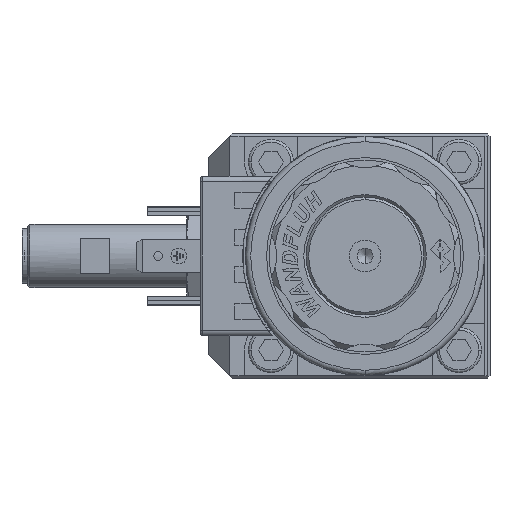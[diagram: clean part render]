
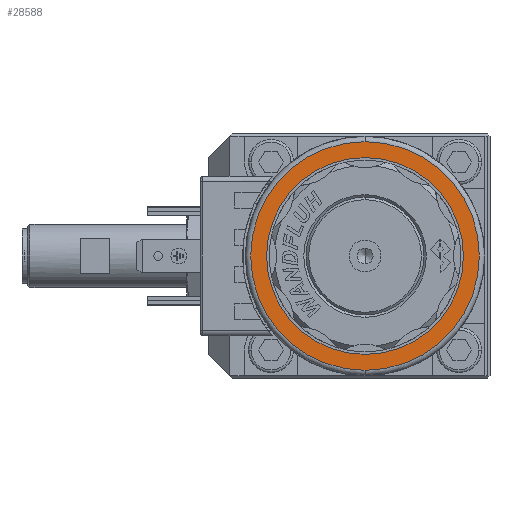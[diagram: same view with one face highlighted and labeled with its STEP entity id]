
A CAD part, left-side view. The second image highlights one B-rep face of the part: STEP entity #28588.
In plain terms, the highlighted planar face has unit normal (-1, 0, 0).
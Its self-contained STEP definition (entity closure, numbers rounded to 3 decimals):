
#7600 = DIRECTION ( 'NONE',  ( 0., 0., -1. ) ) ;
#7769 = CIRCLE ( 'NONE', #18915, 18.5 ) ;
#8116 = ORIENTED_EDGE ( 'NONE', *, *, #62734, .F. ) ;
#11963 = ORIENTED_EDGE ( 'NONE', *, *, #51645, .F. ) ;
#12157 = CARTESIAN_POINT ( 'NONE',  ( -113., -0.5, 21.5 ) ) ;
#18915 = AXIS2_PLACEMENT_3D ( 'NONE', #68910, #84102, #7600 ) ;
#19015 = CARTESIAN_POINT ( 'NONE',  ( -113., -0.5, -21.5 ) ) ;
#19957 = EDGE_LOOP ( 'NONE', ( #11963, #64879 ) ) ;
#21435 = PLANE ( 'NONE',  #89142 ) ;
#25335 = CIRCLE ( 'NONE', #71940, 21.5 ) ;
#27913 = CARTESIAN_POINT ( 'NONE',  ( -113., -0.5, 0. ) ) ;
#27930 = VERTEX_POINT ( 'NONE', #40031 ) ;
#28588 = ADVANCED_FACE ( 'NONE', ( #99547, #45231 ), #21435, .F. ) ;
#33725 = DIRECTION ( 'NONE',  ( 0., 0., -1. ) ) ;
#34491 = CARTESIAN_POINT ( 'NONE',  ( -113., -0.5, 0. ) ) ;
#35448 = DIRECTION ( 'NONE',  ( -1., 0., 0. ) ) ;
#36709 = EDGE_CURVE ( 'NONE', #27930, #56863, #50294, .T. ) ;
#38538 = DIRECTION ( 'NONE',  ( 1., 0., 0. ) ) ;
#40031 = CARTESIAN_POINT ( 'NONE',  ( -113., -0.5, 18.5 ) ) ;
#43115 = CARTESIAN_POINT ( 'NONE',  ( -113., 10.055, 0. ) ) ;
#45231 = FACE_OUTER_BOUND ( 'NONE', #19957, .T. ) ;
#47283 = VERTEX_POINT ( 'NONE', #12157 ) ;
#49864 = DIRECTION ( 'NONE',  ( 1., 0., 0. ) ) ;
#50294 = CIRCLE ( 'NONE', #75153, 18.5 ) ;
#51645 = EDGE_CURVE ( 'NONE', #79116, #47283, #25335, .T. ) ;
#52772 = EDGE_LOOP ( 'NONE', ( #8116, #97988 ) ) ;
#56863 = VERTEX_POINT ( 'NONE', #63402 ) ;
#58752 = CIRCLE ( 'NONE', #69132, 21.5 ) ;
#62734 = EDGE_CURVE ( 'NONE', #56863, #27930, #7769, .T. ) ;
#62817 = DIRECTION ( 'NONE',  ( 0., 0., -1. ) ) ;
#63402 = CARTESIAN_POINT ( 'NONE',  ( -113., -0.5, -18.5 ) ) ;
#64879 = ORIENTED_EDGE ( 'NONE', *, *, #72735, .F. ) ;
#68910 = CARTESIAN_POINT ( 'NONE',  ( -113., -0.5, 0. ) ) ;
#69132 = AXIS2_PLACEMENT_3D ( 'NONE', #34491, #49864, #80920 ) ;
#71940 = AXIS2_PLACEMENT_3D ( 'NONE', #27913, #38538, #33725 ) ;
#72735 = EDGE_CURVE ( 'NONE', #47283, #79116, #58752, .T. ) ;
#75153 = AXIS2_PLACEMENT_3D ( 'NONE', #99199, #35448, #62817 ) ;
#79116 = VERTEX_POINT ( 'NONE', #19015 ) ;
#80920 = DIRECTION ( 'NONE',  ( 0., 0., -1. ) ) ;
#84102 = DIRECTION ( 'NONE',  ( -1., 0., 0. ) ) ;
#89142 = AXIS2_PLACEMENT_3D ( 'NONE', #43115, #97082, #90308 ) ;
#90308 = DIRECTION ( 'NONE',  ( 0., 0., -1. ) ) ;
#97082 = DIRECTION ( 'NONE',  ( 1., 0., 0. ) ) ;
#97988 = ORIENTED_EDGE ( 'NONE', *, *, #36709, .F. ) ;
#99199 = CARTESIAN_POINT ( 'NONE',  ( -113., -0.5, 0. ) ) ;
#99547 = FACE_BOUND ( 'NONE', #52772, .T. ) ;
